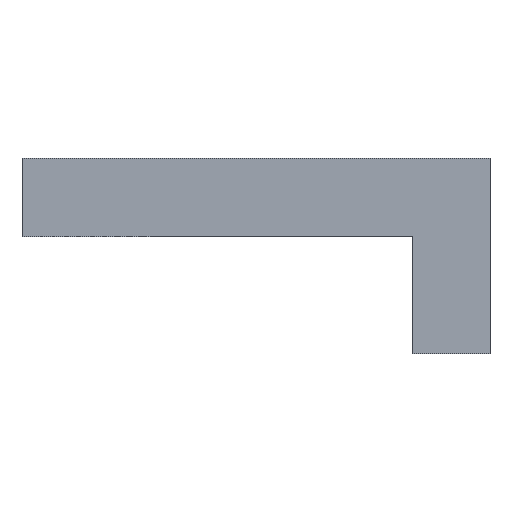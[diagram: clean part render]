
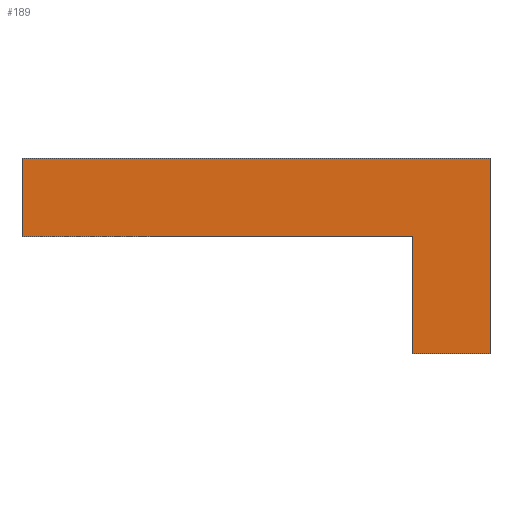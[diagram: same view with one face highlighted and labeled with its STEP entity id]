
A CAD part, front view. The second image highlights one B-rep face of the part: STEP entity #189.
In plain terms, the highlighted planar face has unit normal (0, -1, 0).
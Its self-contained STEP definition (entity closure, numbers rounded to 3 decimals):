
#125 = VERTEX_POINT( '', #323 );
#145 = VERTEX_POINT( '', #346 );
#157 = EDGE_CURVE( '', #289, #197, #361, .T. );
#181 = EDGE_CURVE( '', #145, #125, #388, .T. );
#189 = ADVANCED_FACE( '', ( #396 ), #397, .F. );
#193 = VERTEX_POINT( '', #401 );
#197 = VERTEX_POINT( '', #405 );
#201 = EDGE_CURVE( '', #125, #193, #409, .T. );
#209 = EDGE_CURVE( '', #197, #145, #417, .T. );
#225 = EDGE_CURVE( '', #193, #247, #434, .T. );
#247 = VERTEX_POINT( '', #459 );
#251 = EDGE_CURVE( '', #247, #289, #464, .T. );
#289 = VERTEX_POINT( '', #508 );
#323 = CARTESIAN_POINT( '', ( 10., -28., -40. ) );
#346 = CARTESIAN_POINT( '', ( 10., -28., 10. ) );
#361 = LINE( '', #590, #591 );
#388 = LINE( '', #627, #628 );
#396 = FACE_OUTER_BOUND( '', #639, .T. );
#397 = PLANE( '', #640 );
#401 = CARTESIAN_POINT( '', ( -10., -28., -40. ) );
#405 = CARTESIAN_POINT( '', ( -110., -28., 10. ) );
#409 = LINE( '', #657, #658 );
#417 = LINE( '', #671, #672 );
#434 = LINE( '', #700, #701 );
#459 = CARTESIAN_POINT( '', ( -10., -28., -10. ) );
#464 = LINE( '', #733, #734 );
#508 = CARTESIAN_POINT( '', ( -110., -28., -10. ) );
#590 = CARTESIAN_POINT( '', ( -110., -28., -10. ) );
#591 = VECTOR( '', #854, 1. );
#627 = CARTESIAN_POINT( '', ( 10., -28., 10. ) );
#628 = VECTOR( '', #888, 1. );
#639 = EDGE_LOOP( '', ( #894, #895, #896, #897, #898, #899 ) );
#640 = AXIS2_PLACEMENT_3D( '', #900, #901, #902 );
#657 = CARTESIAN_POINT( '', ( 10., -28., -40. ) );
#658 = VECTOR( '', #905, 1. );
#671 = CARTESIAN_POINT( '', ( -110., -28., 10. ) );
#672 = VECTOR( '', #908, 1. );
#700 = CARTESIAN_POINT( '', ( -10., -28., -40. ) );
#701 = VECTOR( '', #927, 1. );
#733 = CARTESIAN_POINT( '', ( -10., -28., -10. ) );
#734 = VECTOR( '', #965, 1. );
#854 = DIRECTION( '', ( 0., 0., 1. ) );
#888 = DIRECTION( '', ( 0., 0., -1. ) );
#894 = ORIENTED_EDGE( '', *, *, #181, .F. );
#895 = ORIENTED_EDGE( '', *, *, #209, .F. );
#896 = ORIENTED_EDGE( '', *, *, #157, .F. );
#897 = ORIENTED_EDGE( '', *, *, #251, .F. );
#898 = ORIENTED_EDGE( '', *, *, #225, .F. );
#899 = ORIENTED_EDGE( '', *, *, #201, .F. );
#900 = CARTESIAN_POINT( '', ( 0., -28., 0. ) );
#901 = DIRECTION( '', ( 0., 1., 0. ) );
#902 = DIRECTION( '', ( 0., 0., 1. ) );
#905 = DIRECTION( '', ( -1., 0., 0. ) );
#908 = DIRECTION( '', ( 1., 0., 0. ) );
#927 = DIRECTION( '', ( 0., 0., 1. ) );
#965 = DIRECTION( '', ( -1., 0., 0. ) );
